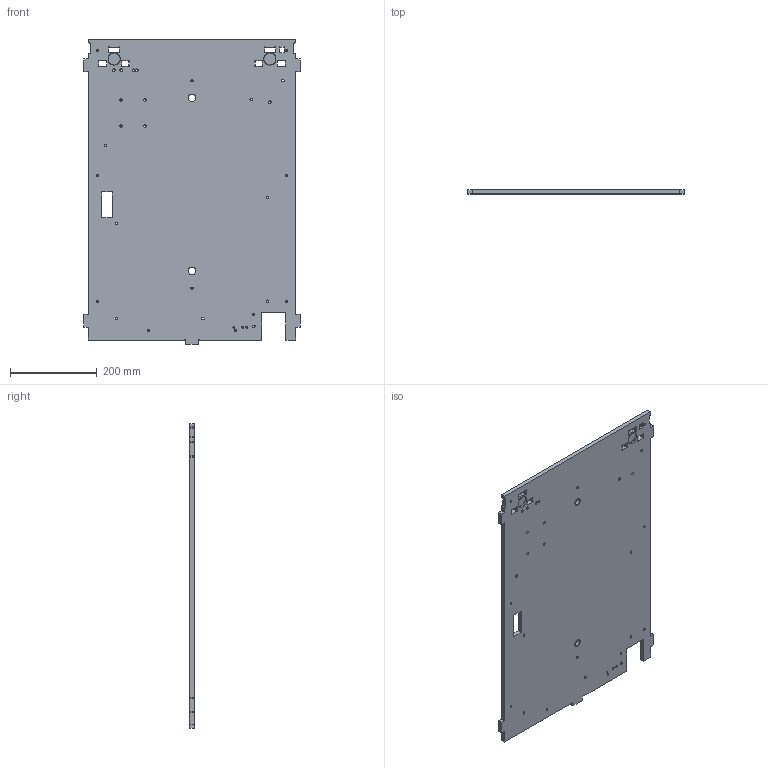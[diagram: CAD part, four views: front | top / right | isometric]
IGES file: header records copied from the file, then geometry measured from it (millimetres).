
Start section: SolidWorks IGES file using analytic representation for surfaces
Global section: file name: C:\PDF\庋.803-5-24.0.0.1.IGS,; native system: SolidWorks 2016; preprocessor: SolidWorks 2016; author: Diman; date: 210306.202912; units: millimetre
Bounding box: 500 x 10 x 705 mm (x, y, z)
Surface area: 693499.4 mm2 (no closed solid volume)
Topology: 0 solids, 0 shells, 322 faces, 5376 edges, 5376 vertices
Faces by surface type: revolution 250, bspline 72
